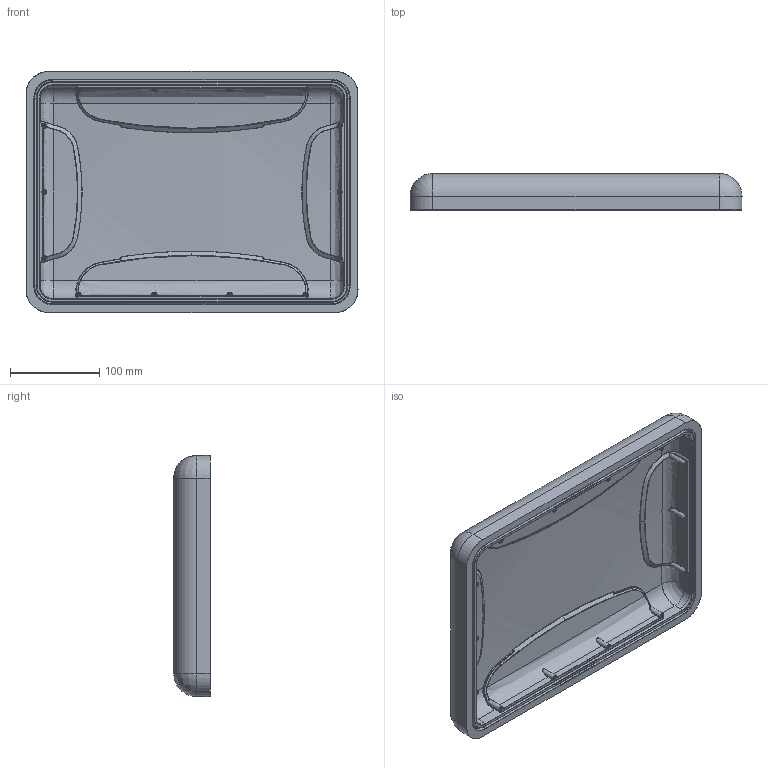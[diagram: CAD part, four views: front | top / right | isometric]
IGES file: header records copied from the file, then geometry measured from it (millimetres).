
Start section: SolidWorks IGES file using analytic representation for surfaces
Global section: file name: C:\Users\bcoley\Desktop\Cases from server\Cases\910\NDA Required\INNER SURFS\NANUK_910_Top Shell_INNER SURFS_IGES.IGS; native system: SolidWorks 2012; preprocessor: SolidWorks 2012; author: bcoley; date: 130316.150222; units: inch
Bounding box: 371.06 x 40.64 x 269.42 mm (x, y, z)
Surface area: 279532.4 mm2 (no closed solid volume)
Topology: 0 solids, 0 shells, 979 faces, 12588 edges, 12568 vertices
Faces by surface type: bspline 824, revolution 155
